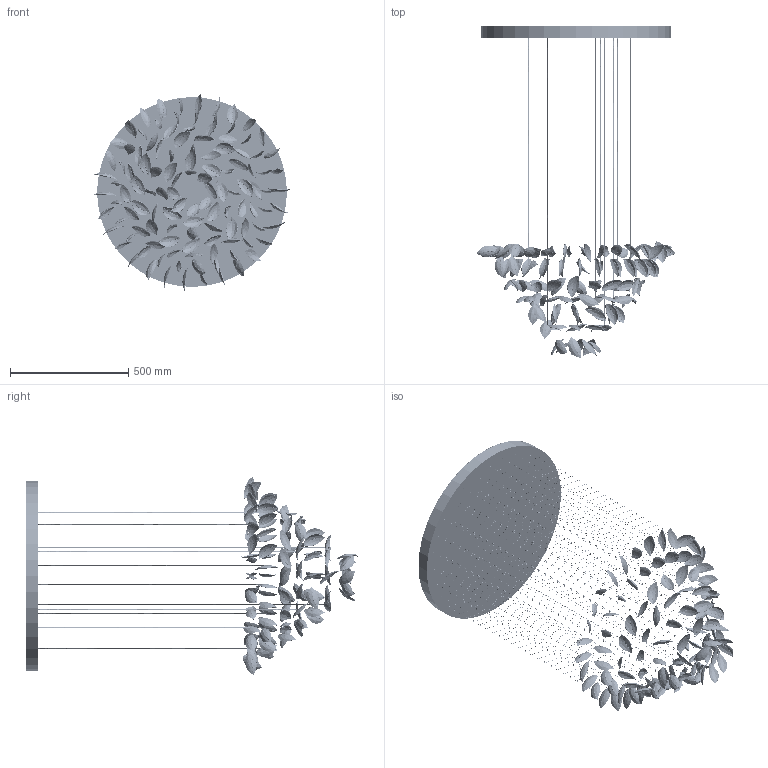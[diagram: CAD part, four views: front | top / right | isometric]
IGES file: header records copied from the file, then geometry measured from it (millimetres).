
Start section: SolidWorks IGES file using analytic representation for surfaces
Global section: file name: F:\燠隴矨\3D\2024-11堎\Shake Leaves Chandelier-D80CM.IGS; native system: SolidWorks 2022; preprocessor: SolidWorks 2022; author: MyPC; date: 241127.160204; units: millimetre
Bounding box: 838.68 x 1400.48 x 837.01 mm (x, y, z)
Surface area: 2390965.5 mm2 (no closed solid volume)
Topology: 0 solids, 0 shells, 1895 faces, 85765 edges, 85765 vertices
Faces by surface type: bspline 1655, revolution 240
